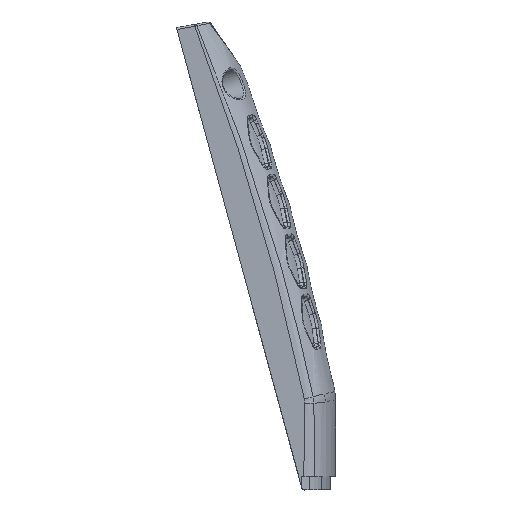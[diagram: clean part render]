
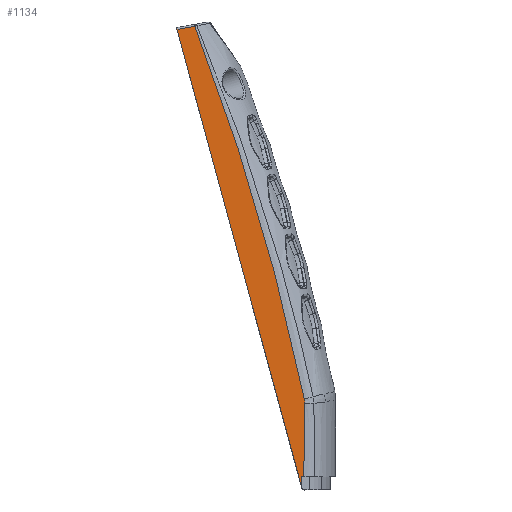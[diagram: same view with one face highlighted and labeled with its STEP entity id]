
A CAD part, left-side view. The second image highlights one B-rep face of the part: STEP entity #1134.
In plain terms, the highlighted planar face has unit normal (-1, 0, 0).
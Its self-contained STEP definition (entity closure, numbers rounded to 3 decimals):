
#1134=ADVANCED_FACE('',(#1766),#1731,.F.);
#1731=PLANE('',#9106);
#1766=FACE_OUTER_BOUND('',#2366,.T.);
#2366=EDGE_LOOP('',(#3381,#3382,#3383,#3384,#3385,#3386,#3387));
#2974=LINE('',#12892,#3055);
#2975=LINE('',#12894,#3056);
#2976=LINE('',#12896,#3057);
#2977=LINE('',#12898,#3058);
#3055=VECTOR('',#9628,1.);
#3056=VECTOR('',#9629,1.);
#3057=VECTOR('',#9630,1.);
#3058=VECTOR('',#9631,1.);
#3381=ORIENTED_EDGE('',*,*,#7027,.T.);
#3382=ORIENTED_EDGE('',*,*,#7028,.T.);
#3383=ORIENTED_EDGE('',*,*,#7029,.T.);
#3384=ORIENTED_EDGE('',*,*,#7030,.T.);
#3385=ORIENTED_EDGE('',*,*,#7031,.F.);
#3386=ORIENTED_EDGE('',*,*,#7032,.T.);
#3387=ORIENTED_EDGE('',*,*,#7033,.T.);
#6190=VERTEX_POINT('',#12890);
#6191=VERTEX_POINT('',#12891);
#6192=VERTEX_POINT('',#12893);
#6193=VERTEX_POINT('',#12895);
#6194=VERTEX_POINT('',#12897);
#6195=VERTEX_POINT('',#12899);
#6196=VERTEX_POINT('',#12904);
#7027=EDGE_CURVE('',#6190,#6191,#8433,.T.);
#7028=EDGE_CURVE('',#6191,#6192,#2974,.T.);
#7029=EDGE_CURVE('',#6192,#6193,#2975,.T.);
#7030=EDGE_CURVE('',#6193,#6194,#2976,.T.);
#7031=EDGE_CURVE('',#6195,#6194,#2977,.T.);
#7032=EDGE_CURVE('',#6195,#6196,#8434,.T.);
#7033=EDGE_CURVE('',#6196,#6190,#8435,.T.);
#8433=B_SPLINE_CURVE_WITH_KNOTS('',3,(#12886,#12887,#12888,#12889),.UNSPECIFIED.,
 .F.,.F.,(4,4),(0.,1.),.UNSPECIFIED.);
#8434=B_SPLINE_CURVE_WITH_KNOTS('',3,(#12900,#12901,#12902,#12903),.UNSPECIFIED.,
 .F.,.F.,(4,4),(0.,1.),.UNSPECIFIED.);
#8435=B_SPLINE_CURVE_WITH_KNOTS('',3,(#12905,#12906,#12907,#12908),.UNSPECIFIED.,
 .F.,.F.,(4,4),(0.,1.),.UNSPECIFIED.);
#9106=AXIS2_PLACEMENT_3D('',#12909,#9632,#9633);
#9628=DIRECTION('',(0.,0.985,-0.174));
#9629=DIRECTION('',(0.,-0.263,-0.965));
#9630=DIRECTION('',(0.,0.,1.));
#9631=DIRECTION('',(0.,1.,0.));
#9632=DIRECTION('',(1.,0.,0.));
#9633=DIRECTION('',(0.,0.98,-0.199));
#12886=CARTESIAN_POINT('',(76.589,49.804,105.252));
#12887=CARTESIAN_POINT('',(76.589,54.921,129.909));
#12888=CARTESIAN_POINT('',(76.589,61.985,153.977));
#12889=CARTESIAN_POINT('',(76.589,70.995,177.455));
#12890=CARTESIAN_POINT('',(76.589,49.804,105.252));
#12891=CARTESIAN_POINT('',(76.589,70.995,177.455));
#12892=CARTESIAN_POINT('',(76.589,74.502,176.837));
#12893=CARTESIAN_POINT('',(76.589,74.47,176.843));
#12894=CARTESIAN_POINT('',(76.589,52.707,96.944));
#12895=CARTESIAN_POINT('',(76.589,50.311,88.149));
#12896=CARTESIAN_POINT('',(76.589,50.311,88.72));
#12897=CARTESIAN_POINT('',(76.589,50.311,90.17));
#12898=CARTESIAN_POINT('',(76.589,64.417,90.17));
#12899=CARTESIAN_POINT('',(76.589,49.883,90.17));
#12900=CARTESIAN_POINT('',(76.589,49.883,90.17));
#12901=CARTESIAN_POINT('',(76.589,49.779,96.379));
#12902=CARTESIAN_POINT('',(76.589,49.727,101.118));
#12903=CARTESIAN_POINT('',(76.589,49.727,104.389));
#12904=CARTESIAN_POINT('',(76.589,49.727,104.389));
#12905=CARTESIAN_POINT('',(76.589,49.727,104.389));
#12906=CARTESIAN_POINT('',(76.589,49.728,104.719));
#12907=CARTESIAN_POINT('',(76.589,49.753,105.007));
#12908=CARTESIAN_POINT('',(76.589,49.804,105.252));
#12909=CARTESIAN_POINT('',(76.589,64.417,101.634));
